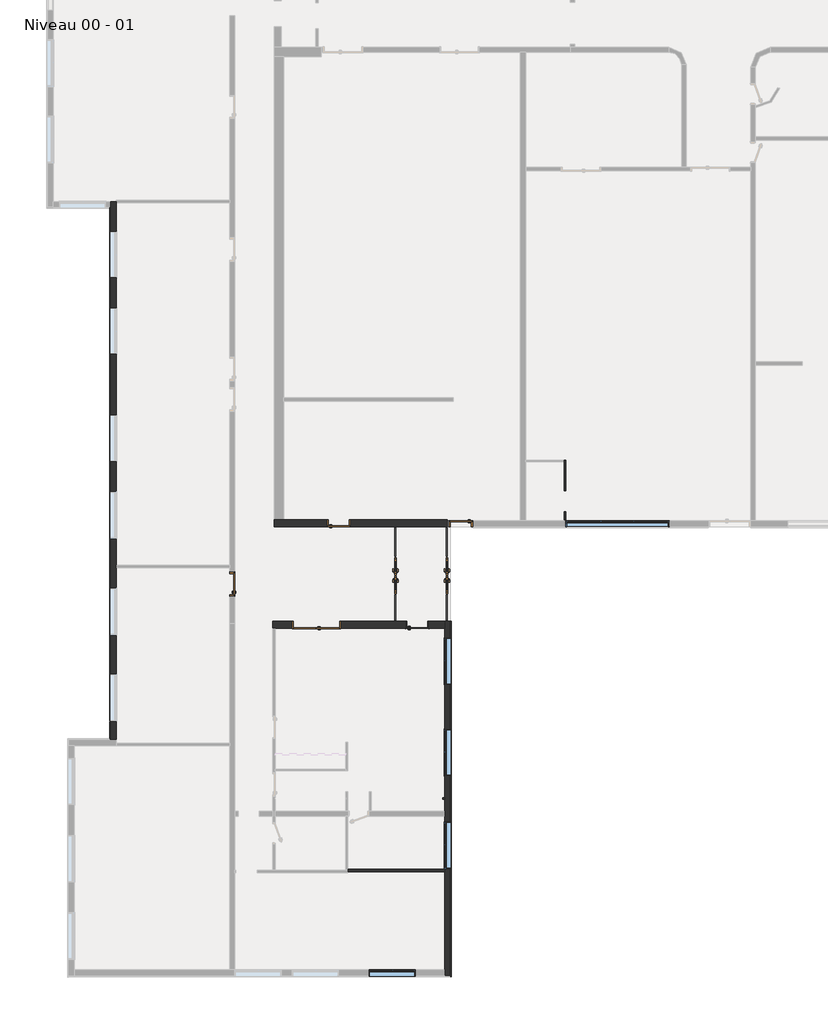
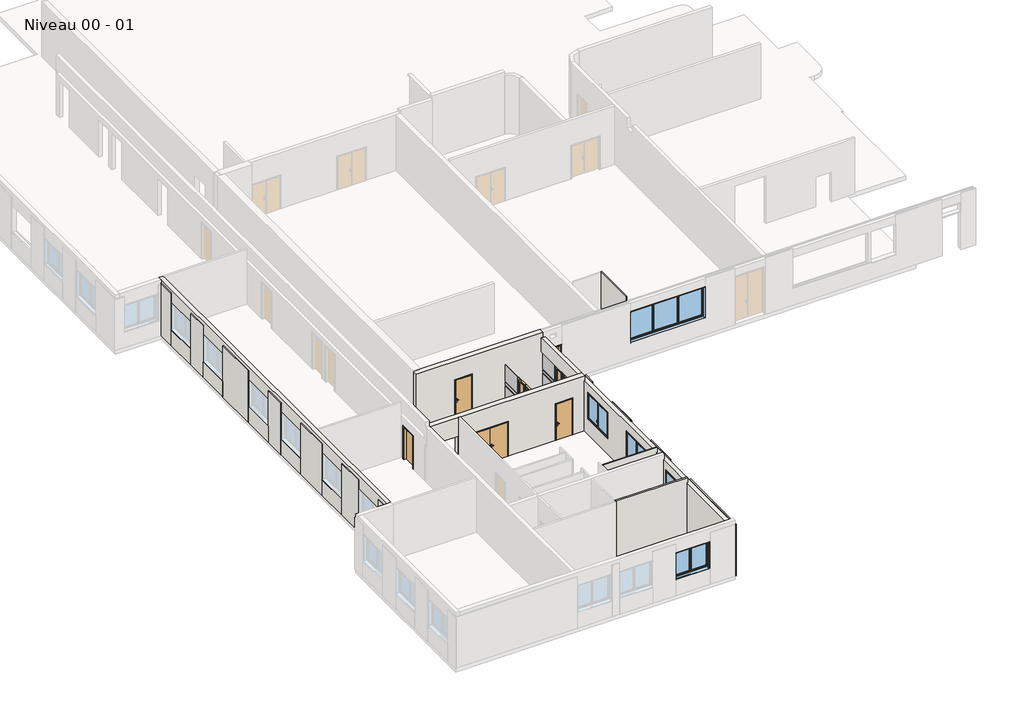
# One storey, part 2 of 8: 12 plates, 9 doors, 9 walls, 5 windows.
"""IFC4 building model written with IfcOpenShell, lengths in millimetres."""

from ifc_helpers import new_model, si_unit, frame, origin, place, context, project, spatial, polyline, outline, extrude, faceted_brep, transform, mapped, element, save
from components import door_2259044a, door_c604b2eb, door_7b7904bd, door_6e5ff935, door_8299daf2, double_r_200m_x_2_10m_123d72e1, plate_98374eae, plate_e04c7937, plate_08b934fe, plate_9c318043, plate_d6a724a6, plate_5824cc35, window_190x440_032361bc, window_200_x_160_3bbd1c25

model = new_model("IFC4")

# Units and contexts
model_context = context("Model", 3, world=origin())
ifc_project = project(units=[si_unit("LENGTHUNIT", "METRE", prefix="MILLI")], contexts=[model_context])

# Site, building, storey
site = spatial("IfcSite", under=ifc_project)
building = spatial("IfcBuilding", under=site)
storey = spatial("IfcBuildingStorey", under=building, Name="Niveau 00 - 01", Elevation=253.3082742)

# Doors
placement = place(None, origin())
door_shape = door_2259044a(model_context)
element("IfcDoor", 1, ObjectType="@_Int. Simple : @_PP (0.93m x 2.04m)", at=placement, inside=storey, context=model_context, shape_type="MappedRepresentation", body=[
    mapped(door_shape, transform((-38143.9891749, -36924.0543071, 253.3082742), x_axis=(0.0, 1.0, 0.0), y_axis=(-1.0, 0.0, 0.0), z_axis=(0.0, 0.0, 1.0))),
])
door_2_shape = door_c604b2eb(model_context)
element("IfcDoor", 2, ObjectType="Simple vitrée : Simple vitrée", at=placement, inside=storey, context=model_context, shape_type="MappedRepresentation", body=[
    mapped(door_2_shape, transform((-28980.0011024, -36201.554307, 253.3082742), x_axis=(0.0, -1.0, 0.0), y_axis=(1.0, 0.0, 0.0), z_axis=(0.0, 0.0, 1.0))),
])
element("IfcDoor", 3, ObjectType="Simple vitrée : Simple vitrée", at=placement, inside=storey, context=model_context, shape_type="MappedRepresentation", body=[
    mapped(door_2_shape, transform((-31180.0011024, -36201.554307, 253.3082742), x_axis=(0.0, -1.0, 0.0), y_axis=(1.0, 0.0, 0.0), z_axis=(0.0, 0.0, 1.0))),
])
door_3_shape = door_7b7904bd(model_context)
element("IfcDoor", 4, ObjectType="Simple vitrée : Simple vitrée", at=placement, inside=storey, context=model_context, shape_type="MappedRepresentation", body=[
    mapped(door_3_shape, transform((-28980.0011024, -36997.3693927, 253.3082742), x_axis=(0.0, 1.0, 0.0), y_axis=(-1.0, 0.0, 0.0), z_axis=(0.0, 0.0, 1.0))),
])
element("IfcDoor", 5, ObjectType="Simple vitrée : Simple vitrée", at=placement, inside=storey, context=model_context, shape_type="MappedRepresentation", body=[
    mapped(door_3_shape, transform((-31180.0011024, -36997.3693927, 253.3082742), x_axis=(0.0, 1.0, 0.0), y_axis=(-1.0, 0.0, 0.0), z_axis=(0.0, 0.0, 1.0))),
])
door_4_shape = door_6e5ff935(model_context)
element("IfcDoor", 6, ObjectType="@_Int. Simple : @_PP (0.93m x 2.25)", at=placement, inside=storey, context=model_context, shape_type="MappedRepresentation", body=[
    mapped(door_4_shape, transform((-33558.9891756, -34359.0543071, 253.3082742), x_axis=(1.0, 0.0, 0.0), y_axis=(0.0, 1.0, 0.0), z_axis=(0.0, 0.0, 1.0))),
])
element("IfcDoor", 7, ObjectType="@_Int. Simple : @_PP (0.93m x 2.25)", at=placement, inside=storey, context=model_context, shape_type="MappedRepresentation", body=[
    mapped(door_4_shape, transform((-30205.0011017, -38709.0543071, 253.3082742), x_axis=(1.0, 0.0, 0.0), y_axis=(0.0, 1.0, 0.0), z_axis=(0.0, 0.0, 1.0))),
])
door_5_shape = door_8299daf2(model_context)
element("IfcDoor", 8, ObjectType="@_Int. Simple : @_PP (0.93m x 2.25)", at=placement, inside=storey, context=model_context, shape_type="MappedRepresentation", body=[
    mapped(door_5_shape, transform((-28408.0967808, -34384.054307, 253.3082742), x_axis=(-1.0, 0.0, 0.0), y_axis=(0.0, -1.0, 0.0), z_axis=(0.0, 0.0, 1.0))),
])
double_r_200m_x_2_10m_shape = double_r_200m_x_2_10m_123d72e1(model_context)
element("IfcDoor", 9, ObjectType="Double (R) : 200m x 2.10m", at=placement, inside=storey, context=model_context, shape_type="MappedRepresentation", body=[
    mapped(double_r_200m_x_2_10m_shape, transform((-34543.9891755, -38709.0543071, 253.3082742), x_axis=(1.0, 0.0, 0.0), y_axis=(0.0, 1.0, 0.0), z_axis=(0.0, 0.0, 1.0))),
])

# Plates
plate_shape = plate_98374eae(model_context)
element("IfcPlate", 10, ObjectType="Panneau système : Vitré", at=placement, inside=storey, context=model_context, shape_type="MappedRepresentation", body=[
    mapped(plate_shape, transform((-28980.0011024, -35169.0543071, 1238.3082742), x_axis=(0.0, -1.0, 0.0), y_axis=(1.0, 0.0, 0.0), z_axis=(0.0, 0.0, 1.0))),
])
element("IfcPlate", 11, ObjectType="Panneau système : Vitré", at=placement, inside=storey, context=model_context, shape_type="MappedRepresentation", body=[
    mapped(plate_shape, transform((-31180.0011024, -35169.0543071, 1238.3082742), x_axis=(0.0, -1.0, 0.0), y_axis=(1.0, 0.0, 0.0), z_axis=(0.0, 0.0, 1.0))),
])
plate_2_shape = plate_e04c7937(model_context)
element("IfcPlate", 12, ObjectType="Panneau système : Vitré", at=placement, inside=storey, context=model_context, shape_type="MappedRepresentation", body=[
    mapped(plate_2_shape, transform((-28980.0011024, -35169.0543071, 1448.4457948), x_axis=(0.0, -1.0, 0.0), y_axis=(1.0, 0.0, 0.0), z_axis=(0.0, 0.0, 1.0))),
])
element("IfcPlate", 13, ObjectType="Panneau système : Vitré", at=placement, inside=storey, context=model_context, shape_type="MappedRepresentation", body=[
    mapped(plate_2_shape, transform((-31180.0011024, -35169.0543071, 1448.4457948), x_axis=(0.0, -1.0, 0.0), y_axis=(1.0, 0.0, 0.0), z_axis=(0.0, 0.0, 1.0))),
])
plate_3_shape = plate_08b934fe(model_context)
element("IfcPlate", 14, ObjectType="Panneau système : Vitré", at=placement, inside=storey, context=model_context, shape_type="MappedRepresentation", body=[
    mapped(plate_3_shape, transform((-28980.0011024, -35169.0543071, 303.3082742), x_axis=(0.0, -1.0, 0.0), y_axis=(1.0, 0.0, 0.0), z_axis=(0.0, 0.0, 1.0))),
])
element("IfcPlate", 15, ObjectType="Panneau système : Vitré", at=placement, inside=storey, context=model_context, shape_type="MappedRepresentation", body=[
    mapped(plate_3_shape, transform((-31180.0011024, -35169.0543071, 303.3082742), x_axis=(0.0, -1.0, 0.0), y_axis=(1.0, 0.0, 0.0), z_axis=(0.0, 0.0, 1.0))),
])
plate_4_shape = plate_9c318043(model_context)
element("IfcPlate", 16, ObjectType="Panneau système : Vitré", at=placement, inside=storey, context=model_context, shape_type="MappedRepresentation", body=[
    mapped(plate_4_shape, transform((-28980.0011024, -37964.8693927, 1448.4457948), x_axis=(0.0, -1.0, 0.0), y_axis=(1.0, 0.0, 0.0), z_axis=(0.0, 0.0, 1.0))),
])
element("IfcPlate", 17, ObjectType="Panneau système : Vitré", at=placement, inside=storey, context=model_context, shape_type="MappedRepresentation", body=[
    mapped(plate_4_shape, transform((-31180.0011024, -37964.8693927, 1448.4457948), x_axis=(0.0, -1.0, 0.0), y_axis=(1.0, 0.0, 0.0), z_axis=(0.0, 0.0, 1.0))),
])
plate_5_shape = plate_d6a724a6(model_context)
element("IfcPlate", 18, ObjectType="Panneau système : Vitré", at=placement, inside=storey, context=model_context, shape_type="MappedRepresentation", body=[
    mapped(plate_5_shape, transform((-28980.0011024, -37964.8693927, 1238.3082742), x_axis=(0.0, -1.0, 0.0), y_axis=(1.0, 0.0, 0.0), z_axis=(0.0, 0.0, 1.0))),
])
element("IfcPlate", 19, ObjectType="Panneau système : Vitré", at=placement, inside=storey, context=model_context, shape_type="MappedRepresentation", body=[
    mapped(plate_5_shape, transform((-31180.0011024, -37964.8693927, 1238.3082742), x_axis=(0.0, -1.0, 0.0), y_axis=(1.0, 0.0, 0.0), z_axis=(0.0, 0.0, 1.0))),
])
plate_6_shape = plate_5824cc35(model_context)
element("IfcPlate", 20, ObjectType="Panneau système : Vitré", at=placement, inside=storey, context=model_context, shape_type="MappedRepresentation", body=[
    mapped(plate_6_shape, transform((-28980.0011024, -37964.8693927, 253.3082742), x_axis=(0.0, -1.0, 0.0), y_axis=(1.0, 0.0, 0.0), z_axis=(0.0, 0.0, 1.0))),
])
element("IfcPlate", 21, ObjectType="Panneau système : Vitré", at=placement, inside=storey, context=model_context, shape_type="MappedRepresentation", body=[
    mapped(plate_6_shape, transform((-31180.0011024, -37964.8693927, 253.3082742), x_axis=(0.0, -1.0, 0.0), y_axis=(1.0, 0.0, 0.0), z_axis=(0.0, 0.0, 1.0))),
])

# Walls
element("IfcWall", 22, ObjectType="@_Générique - Int. 100 mm", at=placement, inside=storey, context=model_context, shape_type="Brep", body=[
    faceted_brep([(-29073.0967815, -49146.6174839, 253.3082742), (-33213.8905761, -49146.6174839, 253.3082742), (-33213.8905761, -49146.6174839, 3653.3082742), (-29023.0967815, -49146.6174839, 3653.3082742), (-29023.0967815, -49146.6174839, 3351.8727639), (-29073.0967815, -49146.6174839, 3351.8727639), (-29073.0967815, -49246.6174839, 253.3082742), (-29073.0967815, -49246.6174839, 3351.8727639), (-29023.0967815, -49246.6174839, 3351.8727639), (-29023.0967815, -49246.6174839, 3653.3082742), (-33213.8905761, -49246.6174839, 3653.3082742), (-33213.8905761, -49246.6174839, 253.3082742), (-33213.8905761, -49189.481824, 253.3082742), (-33213.8905761, -49189.481824, 3653.3082742)], [[[0, 1, 2, 3, 4, 5]], [[6, 7, 8, 9, 10, 11]], [[1, 0, 6, 11, 12]], [[3, 2, 13, 10, 9]], [[4, 8, 7, 5]], [[0, 5, 7, 6]], [[4, 3, 9, 8]], [[2, 1, 12, 11, 10, 13]]]),
])
element("IfcWall", 23, ObjectType="Mur EXE 40- Hach", at=placement, inside=storey, context=model_context, shape_type="Brep", body=[
    faceted_brep([(-28823.0967815, -38559.0543071, 253.3082742), (-28823.0967815, -39252.9121715, 253.3082742), (-28823.0967815, -39252.9121715, 1224.3082742), (-28823.0967815, -39252.9121715, 3421.8727639), (-28823.0967815, -38559.0543071, 3421.8727639), (-28783.0967815, -38559.0543071, 253.3082742), (-28783.0967815, -38559.0543071, 3421.8727639), (-28783.0967815, -39252.9121715, 3421.8727639), (-28783.0967815, -39252.9121715, 1224.3082742), (-28783.0967815, -39252.9121715, 253.3082742)], [[[0, 1, 2, 3, 4]], [[5, 6, 7, 8, 9]], [[1, 0, 5, 9]], [[0, 4, 6, 5]], [[2, 1, 9, 8]], [[3, 2, 8, 7]], [[4, 3, 7, 6]]]),
    faceted_brep([(-28823.0967815, -53741.1523244, 3421.8727639), (-28823.0967815, -53701.1523244, 3421.8727639), (-28823.0967815, -49124.5543071, 3421.8727639), (-28823.0967815, -49124.5543071, 1224.3082742), (-28823.0967815, -49124.5543071, 253.3082742), (-28823.0967815, -53701.1523244, 253.3082742), (-28823.0967815, -53741.1523244, 253.3082742), (-28783.0967815, -53741.1523244, 3421.8727639), (-28783.0967815, -53741.1523244, 253.3082742), (-28783.0967815, -49124.5543071, 253.3082742), (-28783.0967815, -49124.5543071, 1224.3082742), (-28783.0967815, -49124.5543071, 3421.8727639)], [[[0, 1, 2, 3, 4, 5, 6]], [[7, 8, 9, 10, 11]], [[2, 1, 0, 7, 11]], [[3, 2, 11, 10]], [[4, 3, 10, 9]], [[6, 5, 4, 9, 8]], [[0, 6, 8, 7]]]),
    faceted_brep([(-28823.0967815, -49109.5543071, 1224.3082742), (-28823.0967815, -47125.4121715, 1224.3082742), (-28823.0967815, -47125.4121715, 253.3082742), (-28823.0967815, -49109.5543071, 253.3082742), (-28783.0967815, -49109.5543071, 1224.3082742), (-28783.0967815, -49109.5543071, 253.3082742), (-28783.0967815, -47125.4121715, 253.3082742), (-28783.0967815, -47125.4121715, 1224.3082742)], [[[0, 1, 2, 3]], [[4, 5, 6, 7]], [[1, 0, 4, 7]], [[2, 1, 7, 6]], [[3, 2, 6, 5]], [[0, 3, 5, 4]]]),
    faceted_brep([(-28823.0967815, -47110.4121715, 1224.3082742), (-28823.0967815, -47110.4121715, 3421.8727639), (-28823.0967815, -45167.0543071, 3421.8727639), (-28823.0967815, -45167.0543071, 1224.3082742), (-28823.0967815, -45167.0543071, 253.3082742), (-28823.0967815, -47110.4121715, 253.3082742), (-28783.0967815, -47110.4121715, 1224.3082742), (-28783.0967815, -47110.4121715, 253.3082742), (-28783.0967815, -45167.0543071, 253.3082742), (-28783.0967815, -45167.0543071, 1224.3082742), (-28783.0967815, -45167.0543071, 3421.8727639), (-28783.0967815, -47110.4121715, 3421.8727639)], [[[0, 1, 2, 3, 4, 5]], [[6, 7, 8, 9, 10, 11]], [[1, 0, 6, 11]], [[2, 1, 11, 10]], [[3, 2, 10, 9]], [[4, 3, 9, 8]], [[5, 4, 8, 7]], [[0, 5, 7, 6]]]),
    faceted_brep([(-28823.0967815, -45152.0543071, 1224.3082742), (-28823.0967815, -43167.9121715, 1224.3082742), (-28823.0967815, -43167.9121715, 253.3082742), (-28823.0967815, -45152.0543071, 253.3082742), (-28783.0967815, -45152.0543071, 1224.3082742), (-28783.0967815, -45152.0543071, 253.3082742), (-28783.0967815, -43167.9121715, 253.3082742), (-28783.0967815, -43167.9121715, 1224.3082742)], [[[0, 1, 2, 3]], [[4, 5, 6, 7]], [[1, 0, 4, 7]], [[2, 1, 7, 6]], [[3, 2, 6, 5]], [[0, 3, 5, 4]]]),
    faceted_brep([(-28823.0967815, -43152.9121715, 1224.3082742), (-28823.0967815, -43152.9121715, 3421.8727639), (-28823.0967815, -41267.0543071, 3421.8727639), (-28823.0967815, -41267.0543071, 1224.3082742), (-28823.0967815, -41267.0543071, 253.3082742), (-28823.0967815, -43152.9121715, 253.3082742), (-28783.0967815, -43152.9121715, 1224.3082742), (-28783.0967815, -43152.9121715, 253.3082742), (-28783.0967815, -41267.0543071, 253.3082742), (-28783.0967815, -41267.0543071, 1224.3082742), (-28783.0967815, -41267.0543071, 3421.8727639), (-28783.0967815, -43152.9121715, 3421.8727639)], [[[0, 1, 2, 3, 4, 5]], [[6, 7, 8, 9, 10, 11]], [[1, 0, 6, 11]], [[2, 1, 11, 10]], [[3, 2, 10, 9]], [[4, 3, 9, 8]], [[5, 4, 8, 7]], [[0, 5, 7, 6]]]),
    faceted_brep([(-28823.0967815, -41252.0543071, 1224.3082742), (-28823.0967815, -39267.9121715, 1224.3082742), (-28823.0967815, -39267.9121715, 253.3082742), (-28823.0967815, -41252.0543071, 253.3082742), (-28783.0967815, -41252.0543071, 1224.3082742), (-28783.0967815, -41252.0543071, 253.3082742), (-28783.0967815, -39267.9121715, 253.3082742), (-28783.0967815, -39267.9121715, 1224.3082742)], [[[0, 1, 2, 3]], [[4, 5, 6, 7]], [[1, 0, 4, 7]], [[2, 1, 7, 6]], [[3, 2, 6, 5]], [[0, 3, 5, 4]]]),
])
element("IfcWall", 24, ObjectType="Mur EXE 40- Hach", at=placement, inside=storey, context=model_context, shape_type="Brep", body=[
    faceted_brep([(-43382.9002047, -42811.0960908, 1224.3082742), (-43382.9002047, -40826.9539552, 1224.3082742), (-43382.9002047, -40826.9539552, 253.3082742), (-43382.9002047, -42811.0960908, 253.3082742), (-43342.9002047, -42811.0960908, 1224.3082742), (-43342.9002047, -42811.0960908, 253.3082742), (-43342.9002047, -40826.9539552, 253.3082742), (-43342.9002047, -40826.9539552, 1224.3082742)], [[[0, 1, 2, 3]], [[4, 5, 6, 7]], [[1, 0, 4, 7]], [[0, 3, 5, 4]], [[2, 1, 7, 6]], [[3, 2, 6, 5]]]),
    faceted_brep([(-43382.9002047, -40811.9539552, 1224.3082742), (-43382.9002047, -40811.9539552, 3421.8727639), (-43382.9002047, -39146.0936421, 3421.8727639), (-43382.9002047, -39146.0936421, 1224.3082742), (-43382.9002047, -39146.0936421, 253.3082742), (-43382.9002047, -40811.9539552, 253.3082742), (-43342.9002047, -40811.9539552, 1224.3082742), (-43342.9002047, -40811.9539552, 253.3082742), (-43342.9002047, -39146.0936421, 253.3082742), (-43342.9002047, -39146.0936421, 1224.3082742), (-43342.9002047, -39146.0936421, 3421.8727639), (-43342.9002047, -40811.9539552, 3421.8727639)], [[[0, 1, 2, 3, 4, 5]], [[6, 7, 8, 9, 10, 11]], [[1, 0, 6, 11]], [[2, 1, 11, 10]], [[0, 5, 7, 6]], [[5, 4, 8, 7]], [[3, 2, 10, 9]], [[4, 3, 9, 8]]]),
    faceted_brep([(-43382.9002047, -42845.1378749, 3421.8727639), (-43382.9002047, -42845.1378749, 1224.3082742), (-43382.9002047, -42845.1378749, 253.3082742), (-43382.9002047, -43577.1378761, 253.3082742), (-43382.9002047, -43617.1378749, 253.3082742), (-43382.9002047, -43617.1378749, 3421.8727639), (-43382.9002047, -43577.1378761, 3421.8727639), (-43342.9002047, -42845.1378749, 3421.8727639), (-43342.9002047, -43617.1378749, 3421.8727639), (-43342.9002047, -43617.1378749, 253.3082742), (-43342.9002047, -42845.1378749, 253.3082742), (-43342.9002047, -42845.1378749, 1224.3082742)], [[[0, 1, 2, 3, 4, 5, 6]], [[7, 8, 9, 10, 11]], [[1, 0, 7, 11]], [[4, 3, 2, 10, 9]], [[2, 1, 11, 10]], [[0, 6, 5, 8, 7]], [[5, 4, 9, 8]]]),
    faceted_brep([(-43382.9002047, -37130.1826542, 1224.3082742), (-43382.9002047, -37130.1826542, 3421.8727639), (-43382.9002047, -35022.0615604, 3421.8727639), (-43382.9002047, -35022.0615604, 1224.3082742), (-43382.9002047, -35022.0615604, 253.3082742), (-43382.9002047, -37130.1826542, 253.3082742), (-43342.9002047, -37130.1826542, 1224.3082742), (-43342.9002047, -37130.1826542, 253.3082742), (-43342.9002047, -35022.0615604, 253.3082742), (-43342.9002047, -35022.0615604, 1224.3082742), (-43342.9002047, -35022.0615604, 3421.8727639), (-43342.9002047, -37130.1826542, 3421.8727639)], [[[0, 1, 2, 3, 4, 5]], [[6, 7, 8, 9, 10, 11]], [[1, 0, 6, 11]], [[3, 2, 10, 9]], [[0, 5, 7, 6]], [[4, 3, 9, 8]], [[2, 1, 11, 10]], [[5, 4, 8, 7]]]),
    faceted_brep([(-43382.9002047, -39131.0936421, 1224.3082742), (-43382.9002047, -37145.1826542, 1224.3082742), (-43382.9002047, -37145.1826542, 253.3082742), (-43382.9002047, -39131.0936421, 253.3082742), (-43342.9002047, -39131.0936421, 1224.3082742), (-43342.9002047, -39131.0936421, 253.3082742), (-43342.9002047, -37145.1826542, 253.3082742), (-43342.9002047, -37145.1826542, 1224.3082742)], [[[0, 1, 2, 3]], [[4, 5, 6, 7]], [[1, 0, 4, 7]], [[0, 3, 5, 4]], [[2, 1, 7, 6]], [[3, 2, 6, 5]]]),
    faceted_brep([(-43382.9002047, -35006.4564715, 1224.3082742), (-43382.9002047, -33022.3344171, 1224.3082742), (-43382.9002047, -33022.3344171, 253.3082742), (-43382.9002047, -35006.4564715, 253.3082742), (-43342.9002047, -35006.4564715, 1224.3082742), (-43342.9002047, -35006.4564715, 253.3082742), (-43342.9002047, -33022.3344171, 253.3082742), (-43342.9002047, -33022.3344171, 1224.3082742)], [[[0, 1, 2, 3]], [[4, 5, 6, 7]], [[3, 2, 6, 5]], [[2, 1, 7, 6]], [[1, 0, 4, 7]], [[0, 3, 5, 4]]]),
    faceted_brep([(-43382.9002047, -31723.9564715, 1224.3082742), (-43382.9002047, -29739.8344171, 1224.3082742), (-43382.9002047, -29739.8344171, 253.3082742), (-43382.9002047, -31723.9564715, 253.3082742), (-43342.9002047, -31723.9564715, 1224.3082742), (-43342.9002047, -31723.9564715, 253.3082742), (-43342.9002047, -29739.8344171, 253.3082742), (-43342.9002047, -29739.8344171, 1224.3082742)], [[[0, 1, 2, 3]], [[4, 5, 6, 7]], [[1, 0, 4, 7]], [[3, 2, 6, 5]], [[0, 3, 5, 4]], [[2, 1, 7, 6]]]),
    faceted_brep([(-43382.9002047, -31739.5615604, 3421.8727639), (-43382.9002047, -31739.5615604, 1224.3082742), (-43382.9002047, -31739.5615604, 253.3082742), (-43382.9002047, -33006.0816417, 253.3082742), (-43382.9002047, -33006.0816417, 1224.3082742), (-43382.9002047, -33006.0816417, 3421.8727639), (-43342.9002047, -31739.5615604, 3421.8727639), (-43342.9002047, -33006.0816417, 3421.8727639), (-43342.9002047, -33006.0816417, 1224.3082742), (-43342.9002047, -33006.0816417, 253.3082742), (-43342.9002047, -31739.5615604, 253.3082742), (-43342.9002047, -31739.5615604, 1224.3082742)], [[[0, 1, 2, 3, 4, 5]], [[6, 7, 8, 9, 10, 11]], [[0, 5, 7, 6]], [[5, 4, 8, 7]], [[4, 3, 9, 8]], [[3, 2, 10, 9]], [[1, 0, 6, 11]], [[2, 1, 11, 10]]]),
    faceted_brep([(-43382.9002047, -29723.5816417, 1224.3082742), (-43382.9002047, -29723.5816417, 3421.8727639), (-43382.9002047, -27152.0615604, 3421.8727639), (-43382.9002047, -27152.0615604, 1224.3082742), (-43382.9002047, -27152.0615604, 255.1661386), (-43382.9002047, -29723.5816417, 255.1661386), (-43342.9002047, -29723.5816417, 1224.3082742), (-43342.9002047, -29723.5816417, 255.1661386), (-43342.9002047, -27152.0615604, 255.1661386), (-43342.9002047, -27152.0615604, 1224.3082742), (-43342.9002047, -27152.0615604, 3421.8727639), (-43342.9002047, -29723.5816417, 3421.8727639)], [[[0, 1, 2, 3, 4, 5]], [[6, 7, 8, 9, 10, 11]], [[2, 1, 11, 10]], [[4, 3, 9, 8]], [[1, 0, 6, 11]], [[0, 5, 7, 6]], [[3, 2, 10, 9]], [[5, 4, 8, 7]]]),
    faceted_brep([(-43382.9002047, -27136.4564715, 1224.3082742), (-43382.9002047, -25152.3344171, 1224.3082742), (-43382.9002047, -25152.3344171, 255.1661386), (-43382.9002047, -27136.4564715, 255.1661386), (-43342.9002047, -27136.4564715, 1224.3082742), (-43342.9002047, -27136.4564715, 255.1661386), (-43342.9002047, -25152.3344171, 255.1661386), (-43342.9002047, -25152.3344171, 1224.3082742)], [[[0, 1, 2, 3]], [[4, 5, 6, 7]], [[1, 0, 4, 7]], [[2, 1, 7, 6]], [[0, 3, 5, 4]], [[3, 2, 6, 5]]]),
    faceted_brep([(-43382.9002047, -25136.0816417, 1224.3082742), (-43382.9002047, -25136.0816417, 3423.7306282), (-43382.9002047, -23885.8831169, 3423.7306282), (-43382.9002047, -23885.8831169, 1226.1661386), (-43382.9002047, -23885.8831169, 255.1661386), (-43382.9002047, -25136.0816417, 255.1661386), (-43342.9002047, -25136.0816417, 1224.3082742), (-43342.9002047, -25136.0816417, 255.1661386), (-43342.9002047, -23885.8831169, 255.1661386), (-43342.9002047, -23885.8831169, 1226.1661386), (-43342.9002047, -23885.8831169, 3423.7306282), (-43342.9002047, -25136.0816417, 3423.7306282)], [[[0, 1, 2, 3, 4, 5]], [[6, 7, 8, 9, 10, 11]], [[2, 1, 11, 10]], [[0, 5, 7, 6]], [[1, 0, 6, 11]], [[4, 3, 9, 8]], [[3, 2, 10, 9]], [[5, 4, 8, 7]]]),
    faceted_brep([(-43382.9002047, -21869.9031982, 1226.1661386), (-43382.9002047, -21869.9031982, 3467.0389025), (-43382.9002047, -20881.25307, 3467.0389025), (-43382.9002047, -20881.25307, 255.1661386), (-43382.9002047, -21869.9031982, 255.1661386), (-43342.9002047, -21869.9031982, 1226.1661386), (-43342.9002047, -21869.9031982, 255.1661386), (-43342.9002047, -20881.25307, 255.1661386), (-43342.9002047, -20881.25307, 3467.0389025), (-43342.9002047, -21869.9031982, 3467.0389025)], [[[0, 1, 2, 3, 4]], [[5, 6, 7, 8, 9]], [[1, 0, 5, 9]], [[0, 4, 6, 5]], [[2, 1, 9, 8]], [[4, 3, 7, 6]], [[3, 2, 8, 7]]]),
    faceted_brep([(-43382.9002047, -23870.278028, 1226.1661386), (-43382.9002047, -21886.1559736, 1226.1661386), (-43382.9002047, -21886.1559736, 255.1661386), (-43382.9002047, -23870.278028, 255.1661386), (-43342.9002047, -23870.278028, 1226.1661386), (-43342.9002047, -23870.278028, 255.1661386), (-43342.9002047, -21886.1559736, 255.1661386), (-43342.9002047, -21886.1559736, 1226.1661386)], [[[0, 1, 2, 3]], [[4, 5, 6, 7]], [[0, 3, 5, 4]], [[2, 1, 7, 6]], [[1, 0, 4, 7]], [[3, 2, 6, 5]]]),
])
element("IfcWall", 25, ObjectType="@_Générique - Int. 70 mm", at=placement, inside=storey, context=model_context, shape_type="SweptSolid", body=[
    extrude(outline(polyline([(3653.3082742, -29023.0967815), (3653.3082742, -32210.3661248), (253.3082742, -32210.3661248), (253.3082742, -32202.6475976), (2075.0, -32202.6475976), (2075.0, -29152.6475976), (253.3082742, -29152.6475976), (253.3082742, -29073.0967815), (3351.8727639, -29073.0967815), (3351.8727639, -29023.0967815), (3653.3082742, -29023.0967815)])), frame((0.0, -46165.9676203, 0.0), z_axis=(0.0, 1.0, 0.0), x_axis=(0.0, 0.0, 1.0)), (0.0, 0.0, 1.0), 70.0),
])
element("IfcWall", 26, ObjectType="@_Générique - Int. 70 mm", at=placement, inside=storey, context=model_context, shape_type="Brep", body=[
    faceted_brep([(-23963.9891725, -34209.054307, 253.3082742), (-23963.9891725, -34209.054307, 3921.8727639), (-23963.9891725, -31739.0543071, 3921.8727639), (-23963.9891725, -31669.0543071, 3921.8727639), (-23963.9891725, -31669.0543071, 253.3082742), (-23963.9891725, -31739.0543071, 253.3082742), (-23963.9891725, -32964.054307, 253.3082742), (-23963.9891725, -32964.054307, 2075.0), (-23963.9891725, -33864.054307, 2075.0), (-23963.9891725, -33864.054307, 253.3082742), (-23893.9891725, -34209.054307, 3921.8727639), (-23893.9891725, -34209.054307, 253.3082742), (-23893.9891725, -33864.054307, 253.3082742), (-23893.9891725, -33864.054307, 2075.0), (-23893.9891725, -32964.054307, 2075.0), (-23893.9891725, -32964.054307, 253.3082742), (-23893.9891725, -31669.0543071, 253.3082742), (-23893.9891725, -31669.0543071, 3921.8727639)], [[[0, 1, 2, 3, 4, 5, 6, 7, 8, 9]], [[10, 11, 12, 13, 14, 15, 16, 17]], [[11, 0, 9, 12]], [[4, 16, 15, 6, 5]], [[1, 0, 11, 10]], [[3, 2, 1, 10, 17]], [[4, 3, 17, 16]], [[8, 13, 12, 9]], [[13, 8, 7, 14]], [[14, 7, 6, 15]]]),
])
element("IfcWall", 27, ObjectType="Ext. Voile BA 250", at=placement, inside=storey, context=model_context, shape_type="Brep", body=[
    faceted_brep([(-28823.0967815, -34509.0543071, 3351.8727639), (-28823.0967815, -38659.0543071, 3351.8727639), (-28823.0967815, -53451.1523244, 3351.8727639), (-28823.0967815, -53701.1523244, 3351.8727639), (-28823.0967815, -53701.1523244, 253.3082742), (-28823.0967815, -38559.0543071, 253.3082742), (-28823.0967815, -38559.0543071, 2513.8103147), (-28823.0967815, -34509.0543071, 2513.8103147), (-28823.0967815, -39259.0543071, 2853.3082742), (-28823.0967815, -39259.0543071, 1233.3082742), (-28823.0967815, -41259.0543071, 1233.3082742), (-28823.0967815, -41259.0543071, 2853.3082742), (-28823.0967815, -43159.0543071, 2853.3082742), (-28823.0967815, -43159.0543071, 1233.3082742), (-28823.0967815, -45159.0543071, 1233.3082742), (-28823.0967815, -45159.0543071, 2853.3082742), (-28823.0967815, -47118.0259612, 2853.3082742), (-28823.0967815, -47118.0259612, 1233.3082742), (-28823.0967815, -49118.0259612, 1233.3082742), (-28823.0967815, -49118.0259612, 2853.3082742), (-29073.0967815, -53701.1523244, 3351.8727639), (-29073.0967815, -53451.1523244, 3351.8727639), (-29073.0967815, -49246.6174839, 3351.8727639), (-29073.0967815, -49146.6174839, 3351.8727639), (-29073.0967815, -46874.4568753, 3351.8727639), (-29073.0967815, -46674.4568753, 3351.8727639), (-29073.0967815, -46165.9676203, 3351.8727639), (-29073.0967815, -46095.9676203, 3351.8727639), (-29073.0967815, -38859.0543071, 3351.8727639), (-29073.0967815, -38559.0543071, 3351.8727639), (-29073.0967815, -34509.0543071, 3351.8727639), (-29073.0967815, -34509.0543071, 2513.8103147), (-29073.0967815, -38559.0543071, 2513.8103147), (-29073.0967815, -38559.0543071, 253.3082742), (-29073.0967815, -38859.0543071, 253.3082742), (-29073.0967815, -46095.9676203, 253.3082742), (-29073.0967815, -46165.9676203, 253.3082742), (-29073.0967815, -46674.4568753, 253.3082742), (-29073.0967815, -46874.4568753, 253.3082742), (-29073.0967815, -49146.6174839, 253.3082742), (-29073.0967815, -49246.6174839, 253.3082742), (-29073.0967815, -53451.1523244, 253.3082742), (-29073.0967815, -53701.1523244, 253.3082742), (-29073.0967815, -39259.0543071, 1253.3082742), (-29073.0967815, -39259.0543071, 2853.3082742), (-29073.0967815, -41259.0543071, 2853.3082742), (-29073.0967815, -41259.0543071, 1253.3082742), (-29073.0967815, -43159.0543071, 1253.3082742), (-29073.0967815, -43159.0543071, 2853.3082742), (-29073.0967815, -45159.0543071, 2853.3082742), (-29073.0967815, -45159.0543071, 1253.3082742), (-29073.0967815, -47118.0259612, 1253.3082742), (-29073.0967815, -47118.0259612, 2853.3082742), (-29073.0967815, -49118.0259612, 2853.3082742), (-29073.0967815, -49118.0259612, 1253.3082742), (-29043.0967815, -39259.0543071, 1253.3082742), (-29043.0967815, -39259.0543071, 1218.3082742), (-28863.0967815, -39259.0543071, 1218.3082742), (-28863.0967815, -39259.0543071, 1233.3082742), (-29043.0967815, -41259.0543071, 1253.3082742), (-28863.0967815, -41259.0543071, 1233.3082742), (-28863.0967815, -41259.0543071, 1218.3082742), (-29043.0967815, -41259.0543071, 1218.3082742), (-29043.0967815, -43159.0543071, 1253.3082742), (-29043.0967815, -43159.0543071, 1218.3082742), (-28863.0967815, -43159.0543071, 1218.3082742), (-28863.0967815, -43159.0543071, 1233.3082742), (-28863.0967815, -45159.0543071, 1233.3082742), (-28863.0967815, -45159.0543071, 1218.3082742), (-29043.0967815, -45159.0543071, 1218.3082742), (-29043.0967815, -45159.0543071, 1253.3082742), (-29043.0967815, -47118.0259612, 1253.3082742), (-29043.0967815, -47118.0259612, 1218.3082742), (-28863.0967815, -47118.0259612, 1218.3082742), (-28863.0967815, -47118.0259612, 1233.3082742), (-28863.0967815, -49118.0259612, 1233.3082742), (-28863.0967815, -49118.0259612, 1218.3082742), (-29043.0967815, -49118.0259612, 1218.3082742), (-29043.0967815, -49118.0259612, 1253.3082742)], [[[0, 1, 2, 3, 4, 5, 6, 7], [8, 9, 10, 11], [12, 13, 14, 15], [16, 17, 18, 19]], [[20, 21, 22, 23, 24, 25, 26, 27, 28, 29, 30, 31, 32, 33, 34, 35, 36, 37, 38, 39, 40, 41, 42], [43, 44, 45, 46], [47, 48, 49, 50], [51, 52, 53, 54]], [[4, 42, 41, 40, 39, 38, 37, 36, 35, 34, 33, 5]], [[3, 2, 1, 0, 30, 29, 28, 27, 26, 25, 24, 23, 22, 21, 20]], [[4, 3, 20, 42]], [[30, 0, 7, 31]], [[6, 32, 31, 7]], [[32, 6, 5, 33]], [[8, 44, 43, 55, 56, 57, 58, 9]], [[59, 46, 45, 11, 10, 60, 61, 62]], [[55, 43, 46, 59]], [[56, 55, 59, 62]], [[57, 56, 62, 61]], [[58, 57, 61, 60]], [[9, 58, 60, 10]], [[44, 8, 11, 45]], [[48, 47, 63, 64, 65, 66, 13, 12]], [[50, 49, 15, 14, 67, 68, 69, 70]], [[63, 47, 50, 70]], [[64, 63, 70, 69]], [[65, 64, 69, 68]], [[66, 65, 68, 67]], [[13, 66, 67, 14]], [[48, 12, 15, 49]], [[52, 51, 71, 72, 73, 74, 17, 16]], [[54, 53, 19, 18, 75, 76, 77, 78]], [[71, 51, 54, 78]], [[72, 71, 78, 77]], [[73, 72, 77, 76]], [[74, 73, 76, 75]], [[17, 74, 75, 18]], [[52, 16, 19, 53]]]),
])
element("IfcWall", 28, ObjectType="Ext. Voile BA 250", at=placement, inside=storey, context=model_context, shape_type="Brep", body=[
    faceted_brep([(-43092.9002047, -43867.1378722, 253.3082742), (-43092.9002047, -43767.1378722, 253.3082742), (-43092.9002047, -36264.8269594, 253.3082742), (-43092.9002047, -36164.8269594, 253.3082742), (-43092.9002047, -20666.6974195, 253.3082742), (-43092.9002047, -20616.6974201, 253.3082742), (-43092.9002047, -20616.6974201, 3651.8727639), (-43092.9002047, -43617.1378746, 3651.8727639), (-43092.9002047, -43617.1378746, 466.6165485), (-43092.9002047, -43867.1378722, 466.6165485), (-43092.9002047, -42818.0960908, 1253.3082742), (-43092.9002047, -42818.0960908, 2853.3082742), (-43092.9002047, -40818.0960908, 2853.3082742), (-43092.9002047, -40818.0960908, 1253.3082742), (-43092.9002047, -39138.0960908, 1253.3082742), (-43092.9002047, -39138.0960908, 2853.3082742), (-43092.9002047, -37138.0960908, 2853.3082742), (-43092.9002047, -37138.0960908, 1253.3082742), (-43092.9002047, -35014.0543071, 1253.3082742), (-43092.9002047, -35014.0543071, 2853.3082742), (-43092.9002047, -33014.0543071, 2853.3082742), (-43092.9002047, -33014.0543071, 1253.3082742), (-43092.9002047, -31731.5543071, 1253.3082742), (-43092.9002047, -31731.5543071, 2853.3082742), (-43092.9002047, -29731.5543071, 2853.3082742), (-43092.9002047, -29731.5543071, 1253.3082742), (-43092.9002047, -27144.0543071, 1253.3082742), (-43092.9002047, -27144.0543071, 2853.3082742), (-43092.9002047, -25144.0543071, 2853.3082742), (-43092.9002047, -25144.0543071, 1253.3082742), (-43092.9002047, -23877.8758636, 1253.3082742), (-43092.9002047, -23877.8758636, 2853.3082742), (-43092.9002047, -21877.8758636, 2853.3082742), (-43092.9002047, -21877.8758636, 1253.3082742), (-43342.9002047, -20616.6974201, 253.3082742), (-43342.9002047, -20866.6974201, 253.3082742), (-43342.9002047, -43867.1378722, 253.3082742), (-43342.9002047, -43867.1378722, 466.6165485), (-43342.9002047, -43617.1378748, 466.6165485), (-43342.9002047, -43617.1378748, 3651.8727639), (-43342.9002047, -20866.6974201, 3651.8727639), (-43342.9002047, -20666.6974201, 3651.8727639), (-43342.9002047, -20616.6974201, 3651.8727639), (-43342.9002047, -42818.0960908, 2853.3082742), (-43342.9002047, -42818.0960908, 1233.3082742), (-43342.9002047, -40818.0960908, 1233.3082742), (-43342.9002047, -40818.0960908, 2853.3082742), (-43342.9002047, -39138.0960908, 2853.3082742), (-43342.9002047, -39138.0960908, 1233.3082742), (-43342.9002047, -37138.0960908, 1233.3082742), (-43342.9002047, -37138.0960908, 2853.3082742), (-43342.9002047, -35014.0543071, 2853.3082742), (-43342.9002047, -35014.0543071, 1233.3082742), (-43342.9002047, -33014.0543071, 1233.3082742), (-43342.9002047, -33014.0543071, 2853.3082742), (-43342.9002047, -31731.5543071, 2853.3082742), (-43342.9002047, -31731.5543071, 1233.3082742), (-43342.9002047, -29731.5543071, 1233.3082742), (-43342.9002047, -29731.5543071, 2853.3082742), (-43342.9002047, -27144.0543071, 2853.3082742), (-43342.9002047, -27144.0543071, 1233.3082742), (-43342.9002047, -25144.0543071, 1233.3082742), (-43342.9002047, -25144.0543071, 2853.3082742), (-43342.9002047, -23877.8758636, 2853.3082742), (-43342.9002047, -23877.8758636, 1233.3082742), (-43342.9002047, -21877.8758636, 1233.3082742), (-43342.9002047, -21877.8758636, 2853.3082742), (-43122.9002047, -42818.0960908, 1253.3082742), (-43122.9002047, -42818.0960908, 1218.3082742), (-43302.9002047, -42818.0960908, 1218.3082742), (-43302.9002047, -42818.0960908, 1233.3082742), (-43122.9002047, -40818.0960908, 1253.3082742), (-43302.9002047, -40818.0960908, 1233.3082742), (-43302.9002047, -40818.0960908, 1218.3082742), (-43122.9002047, -40818.0960908, 1218.3082742), (-43122.9002047, -39138.0960908, 1253.3082742), (-43122.9002047, -39138.0960908, 1218.3082742), (-43302.9002047, -39138.0960908, 1218.3082742), (-43302.9002047, -39138.0960908, 1233.3082742), (-43122.9002047, -37138.0960908, 1253.3082742), (-43302.9002047, -37138.0960908, 1233.3082742), (-43302.9002047, -37138.0960908, 1218.3082742), (-43122.9002047, -37138.0960908, 1218.3082742), (-43122.9002047, -35014.0543071, 1253.3082742), (-43122.9002047, -35014.0543071, 1218.3082742), (-43302.9002047, -35014.0543071, 1218.3082742), (-43302.9002047, -35014.0543071, 1233.3082742), (-43122.9002047, -33014.0543071, 1253.3082742), (-43302.9002047, -33014.0543071, 1233.3082742), (-43302.9002047, -33014.0543071, 1218.3082742), (-43122.9002047, -33014.0543071, 1218.3082742), (-43122.9002047, -31731.5543071, 1253.3082742), (-43122.9002047, -31731.5543071, 1218.3082742), (-43302.9002047, -31731.5543071, 1218.3082742), (-43302.9002047, -31731.5543071, 1233.3082742), (-43122.9002047, -29731.5543071, 1253.3082742), (-43302.9002047, -29731.5543071, 1233.3082742), (-43302.9002047, -29731.5543071, 1218.3082742), (-43122.9002047, -29731.5543071, 1218.3082742), (-43122.9002047, -27144.0543071, 1253.3082742), (-43122.9002047, -27144.0543071, 1218.3082742), (-43302.9002047, -27144.0543071, 1218.3082742), (-43302.9002047, -27144.0543071, 1233.3082742), (-43122.9002047, -25144.0543071, 1253.3082742), (-43302.9002047, -25144.0543071, 1233.3082742), (-43302.9002047, -25144.0543071, 1218.3082742), (-43122.9002047, -25144.0543071, 1218.3082742), (-43122.9002047, -23877.8758636, 1253.3082742), (-43122.9002047, -23877.8758636, 1218.3082742), (-43302.9002047, -23877.8758636, 1218.3082742), (-43302.9002047, -23877.8758636, 1233.3082742), (-43122.9002047, -21877.8758636, 1253.3082742), (-43302.9002047, -21877.8758636, 1233.3082742), (-43302.9002047, -21877.8758636, 1218.3082742), (-43122.9002047, -21877.8758636, 1218.3082742)], [[[0, 1, 2, 3, 4, 5, 6, 7, 8, 9], [10, 11, 12, 13], [14, 15, 16, 17], [18, 19, 20, 21], [22, 23, 24, 25], [26, 27, 28, 29], [30, 31, 32, 33]], [[34, 35, 36, 37, 38, 39, 40, 41, 42], [43, 44, 45, 46], [47, 48, 49, 50], [51, 52, 53, 54], [55, 56, 57, 58], [59, 60, 61, 62], [63, 64, 65, 66]], [[5, 4, 3, 2, 1, 0, 36, 35, 34]], [[7, 6, 42, 41, 40, 39]], [[6, 5, 34, 42]], [[38, 37, 9, 8]], [[36, 0, 9, 37]], [[7, 39, 38, 8]], [[43, 11, 10, 67, 68, 69, 70, 44]], [[71, 13, 12, 46, 45, 72, 73, 74]], [[67, 10, 13, 71]], [[68, 67, 71, 74]], [[69, 68, 74, 73]], [[70, 69, 73, 72]], [[44, 70, 72, 45]], [[11, 43, 46, 12]], [[47, 15, 14, 75, 76, 77, 78, 48]], [[79, 17, 16, 50, 49, 80, 81, 82]], [[75, 14, 17, 79]], [[76, 75, 79, 82]], [[77, 76, 82, 81]], [[78, 77, 81, 80]], [[48, 78, 80, 49]], [[15, 47, 50, 16]], [[51, 19, 18, 83, 84, 85, 86, 52]], [[87, 21, 20, 54, 53, 88, 89, 90]], [[83, 18, 21, 87]], [[84, 83, 87, 90]], [[85, 84, 90, 89]], [[86, 85, 89, 88]], [[52, 86, 88, 53]], [[19, 51, 54, 20]], [[55, 23, 22, 91, 92, 93, 94, 56]], [[95, 25, 24, 58, 57, 96, 97, 98]], [[91, 22, 25, 95]], [[92, 91, 95, 98]], [[93, 92, 98, 97]], [[94, 93, 97, 96]], [[56, 94, 96, 57]], [[23, 55, 58, 24]], [[59, 27, 26, 99, 100, 101, 102, 60]], [[103, 29, 28, 62, 61, 104, 105, 106]], [[99, 26, 29, 103]], [[100, 99, 103, 106]], [[101, 100, 106, 105]], [[102, 101, 105, 104]], [[60, 102, 104, 61]], [[27, 59, 62, 28]], [[63, 31, 30, 107, 108, 109, 110, 64]], [[111, 33, 32, 66, 65, 112, 113, 114]], [[107, 30, 33, 111]], [[108, 107, 111, 114]], [[109, 108, 114, 113]], [[110, 109, 113, 112]], [[64, 110, 112, 65]], [[31, 63, 66, 32]]]),
])
element("IfcWall", 29, ObjectType="Ext. Voile BA 300", at=placement, inside=storey, context=model_context, shape_type="Brep", body=[
    faceted_brep([(-36343.9891738, -34209.0543071, 3653.3082742), (-28948.0967815, -34209.0543071, 3653.3082742), (-28948.0967815, -34209.0543071, 253.3082742), (-33093.9891756, -34209.0543071, 253.3082742), (-33093.9891756, -34209.0543071, 2518.3082742), (-34093.9891756, -34209.0543071, 2518.3082742), (-34093.9891756, -34209.0543071, 253.3082742), (-35943.9891738, -34209.0543071, 253.3082742), (-36343.9891738, -34209.0543071, 253.3082742), (-28948.0967815, -34509.0543071, 3653.3082742), (-36343.9891738, -34509.0543071, 3653.3082742), (-36343.9891738, -34509.0543071, 253.3082742), (-34093.9891756, -34509.0543071, 253.3082742), (-34093.9891756, -34509.0543071, 2518.3082742), (-33093.9891756, -34509.0543071, 2518.3082742), (-33093.9891756, -34509.0543071, 253.3082742), (-28948.0967815, -34509.0543071, 253.3082742), (-28948.0967815, -34259.054307, 253.3082742), (-28948.0967815, -34309.054307, 3653.3082742)], [[[0, 1, 2, 3, 4, 5, 6, 7, 8]], [[9, 10, 11, 12, 13, 14, 15, 16]], [[11, 8, 7, 6, 12]], [[2, 17, 16, 15, 3]], [[1, 0, 10, 9, 18]], [[0, 8, 11, 10]], [[1, 18, 9, 16, 17, 2]], [[14, 4, 3, 15]], [[4, 14, 13, 5]], [[5, 13, 12, 6]]]),
])
element("IfcWall", 30, ObjectType="Ext. Voile BA 300", at=placement, inside=storey, context=model_context, shape_type="Brep", body=[
    faceted_brep([(-38043.9891749, -38559.0543071, 3651.8727639), (-29023.0967815, -38559.0543071, 3651.8727639), (-29023.0967815, -38559.0543071, 3351.8727639), (-29073.0967815, -38559.0543071, 3351.8727639), (-29073.0967815, -38559.0543071, 2513.8103147), (-29073.0967815, -38559.0543071, 253.3082742), (-29740.0011017, -38559.0543071, 253.3082742), (-29740.0011017, -38559.0543071, 2518.3082742), (-30740.0011017, -38559.0543071, 2518.3082742), (-30740.0011017, -38559.0543071, 253.3082742), (-33508.9891755, -38559.0543071, 253.3082742), (-33508.9891755, -38559.0543071, 2388.3082742), (-35578.9891755, -38559.0543071, 2388.3082742), (-35578.9891755, -38559.0543071, 253.3082742), (-36403.9891748, -38559.0543071, 253.3082742), (-36403.9891748, -38559.0543071, 2500.0), (-38043.9891749, -38559.0543071, 2500.0), (-38043.9891749, -38559.0543071, 2883.6639381), (-38043.9891749, -38559.0543071, 3083.9384073), (-29023.0967815, -38859.0543071, 3651.8727639), (-38043.9891749, -38859.0543071, 3651.8727639), (-38043.9891749, -38859.0543071, 2500.0), (-36403.9891748, -38859.0543071, 2500.0), (-36403.9891748, -38859.0543071, 253.3082742), (-36303.9891748, -38859.0543071, 253.3082742), (-35578.9891755, -38859.0543071, 253.3082742), (-35578.9891755, -38859.0543071, 2388.3082742), (-33508.9891755, -38859.0543071, 2388.3082742), (-33508.9891755, -38859.0543071, 253.3082742), (-30740.0011017, -38859.0543071, 253.3082742), (-30740.0011017, -38859.0543071, 2518.3082742), (-29740.0011017, -38859.0543071, 2518.3082742), (-29740.0011017, -38859.0543071, 253.3082742), (-29073.0967815, -38859.0543071, 253.3082742), (-29073.0967815, -38859.0543071, 3351.8727639), (-29023.0967815, -38859.0543071, 3351.8727639), (-38043.9891749, -38709.0543071, 2500.0), (-38043.9891749, -38759.0543071, 3651.8727639), (-38043.9891749, -38709.0543071, 3651.8727639), (-29023.0967815, -38659.0543071, 3651.8727639), (-29023.0967815, -38659.0543071, 3351.8727639)], [[[0, 1, 2, 3, 4, 5, 6, 7, 8, 9, 10, 11, 12, 13, 14, 15, 16, 17, 18]], [[19, 20, 21, 22, 23, 24, 25, 26, 27, 28, 29, 30, 31, 32, 33, 34, 35]], [[0, 18, 17, 16, 36, 21, 20, 37, 38]], [[5, 4, 3, 34, 33]], [[2, 1, 39, 19, 35, 40]], [[11, 10, 28, 27]], [[13, 12, 26, 25]], [[26, 12, 11, 27]], [[31, 7, 6, 32]], [[7, 31, 30, 8]], [[8, 30, 29, 9]], [[14, 13, 25, 24, 23]], [[28, 10, 9, 29]], [[5, 33, 32, 6]], [[1, 0, 38, 37, 20, 19, 39]], [[35, 34, 3, 2, 40]], [[16, 15, 22, 21, 36]], [[15, 14, 23, 22]]]),
])

# Windows
window_190x440_shape = window_190x440_032361bc(model_context)
element("IfcWindow", 31, ObjectType="3 Vantaux : 190x440", at=placement, inside=storey, context=model_context, shape_type="MappedRepresentation", body=[
    mapped(window_190x440_shape, transform((-21683.9891725, -34384.054307, 453.3082742), x_axis=(-1.0, 0.0, 0.0), y_axis=(0.0, -1.0, 0.0), z_axis=(0.0, 0.0, 1.0))),
])
window_200_x_160_shape = window_200_x_160_3bbd1c25(model_context)
element("IfcWindow", 32, ObjectType="2 Vantaux : 200 x 160", at=placement, inside=storey, context=model_context, shape_type="MappedRepresentation", body=[
    mapped(window_200_x_160_shape, transform((-28948.0967815, -40259.0543071, 453.3082742), x_axis=(0.0, 1.0, 0.0), y_axis=(-1.0, 0.0, 0.0), z_axis=(0.0, 0.0, 1.0))),
])
element("IfcWindow", 33, ObjectType="2 Vantaux : 200 x 160", at=placement, inside=storey, context=model_context, shape_type="MappedRepresentation", body=[
    mapped(window_200_x_160_shape, transform((-28948.0967815, -44159.0543071, 453.3082742), x_axis=(0.0, 1.0, 0.0), y_axis=(-1.0, 0.0, 0.0), z_axis=(0.0, 0.0, 1.0))),
])
element("IfcWindow", 34, ObjectType="2 Vantaux : 200 x 160", at=placement, inside=storey, context=model_context, shape_type="MappedRepresentation", body=[
    mapped(window_200_x_160_shape, transform((-28948.0967815, -48118.0259612, 453.3082742), x_axis=(0.0, 1.0, 0.0), y_axis=(-1.0, 0.0, 0.0), z_axis=(0.0, 0.0, 1.0))),
])
element("IfcWindow", 35, ObjectType="2 Vantaux : 200 x 160", at=placement, inside=storey, context=model_context, shape_type="MappedRepresentation", body=[
    mapped(window_200_x_160_shape, transform((-31313.0967808, -53576.1523244, 453.3082742), x_axis=(1.0, 0.0, 0.0), y_axis=(0.0, 1.0, 0.0), z_axis=(0.0, 0.0, 1.0))),
])

save(model, "model.ifc")
